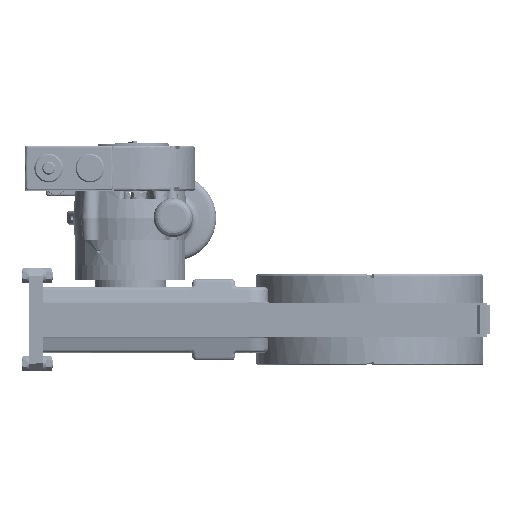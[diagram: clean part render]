
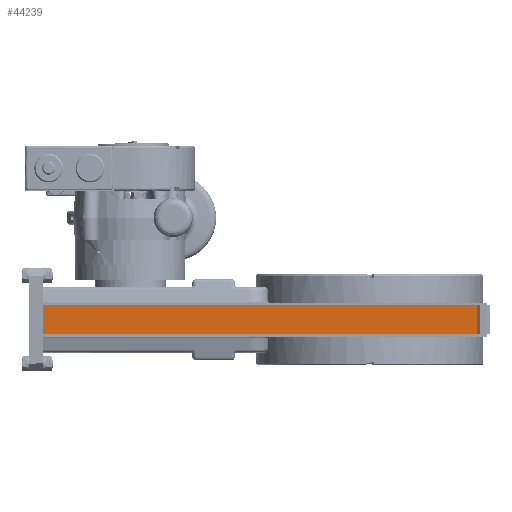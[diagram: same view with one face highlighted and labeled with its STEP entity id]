
A CAD part, left-side view. The second image highlights one B-rep face of the part: STEP entity #44239.
In plain terms, the highlighted free-form (B-spline) face has degree [1, 1] with [2, 2] control points.
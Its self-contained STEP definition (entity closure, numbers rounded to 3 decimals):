
#44049=CARTESIAN_POINT('V9',(0.,22.45,0.0)
   );
#44050=VERTEX_POINT('V9',#44049);
#44056=CARTESIAN_POINT('V7',(0.0,0.0,0.0));
#44057=VERTEX_POINT('V7',#44056);
#44058=CARTESIAN_POINT('E4',(0.0,0.0,0.0));
#44059=CARTESIAN_POINT('E4',(0.,22.45,0.0)
   );
#44060=QUASI_UNIFORM_CURVE('E4',1,(#44058,#44059),.POLYLINE_FORM.,
   .F.,.U.);
#44061=EDGE_CURVE('E4',#44057,#44050,#44060,.T.);
#44114=CARTESIAN_POINT('V8',(0.0,0.0,335.0));
#44115=VERTEX_POINT('V8',#44114);
#44121=CARTESIAN_POINT('V10',(0.,22.45,335.0)
   );
#44122=VERTEX_POINT('V10',#44121);
#44123=CARTESIAN_POINT('E17',(0.,22.45,335.0)
   );
#44124=CARTESIAN_POINT('E17',(0.0,0.0,335.0));
#44125=QUASI_UNIFORM_CURVE('E17',1,(#44123,#44124),.POLYLINE_FORM.,
   .F.,.U.);
#44126=EDGE_CURVE('E17',#44122,#44115,#44125,.T.);
#44214=CARTESIAN_POINT('E24',(0.0,0.0,335.0));
#44215=CARTESIAN_POINT('E24',(0.0,0.0,0.0));
#44216=QUASI_UNIFORM_CURVE('E24',1,(#44214,#44215),.POLYLINE_FORM.,
   .F.,.U.);
#44217=EDGE_CURVE('E24',#44115,#44057,#44216,.T.);
#44224=CARTESIAN_POINT('F6',(0.,22.45,0.0)
   );
#44225=CARTESIAN_POINT('F6',(0.0,0.0,0.0));
#44226=CARTESIAN_POINT('F6',(0.,22.45,335.0)
   );
#44227=CARTESIAN_POINT('F6',(0.0,0.0,335.0));
#44228=B_SPLINE_SURFACE_WITH_KNOTS('F6',1,1,((#44224,#44226),(
   #44225,#44227)),.PLANE_SURF.,.F.,.F.,.U.,(2,2),(2,2),(0.0,1.0),
   (0.0,14.922),.UNSPECIFIED.);
#44229=ORIENTED_EDGE('E4',*,*,#44061,.T.);
#44230=CARTESIAN_POINT('E25',(0.,22.45,335.0)
   );
#44231=CARTESIAN_POINT('E25',(0.,22.45,0.0)
   );
#44232=QUASI_UNIFORM_CURVE('E25',1,(#44230,#44231),.POLYLINE_FORM.,
   .F.,.U.);
#44233=EDGE_CURVE('E25',#44122,#44050,#44232,.T.);
#44234=ORIENTED_EDGE('E25',*,*,#44233,.F.);
#44235=ORIENTED_EDGE('E17',*,*,#44126,.T.);
#44236=ORIENTED_EDGE('E24',*,*,#44217,.T.);
#44237=EDGE_LOOP('F6',(#44229,#44234,#44235,#44236));
#44238=FACE_OUTER_BOUND('F6',#44237,.F.);
#44239=ADVANCED_FACE('F6',(#44238),#44228,.T.);
